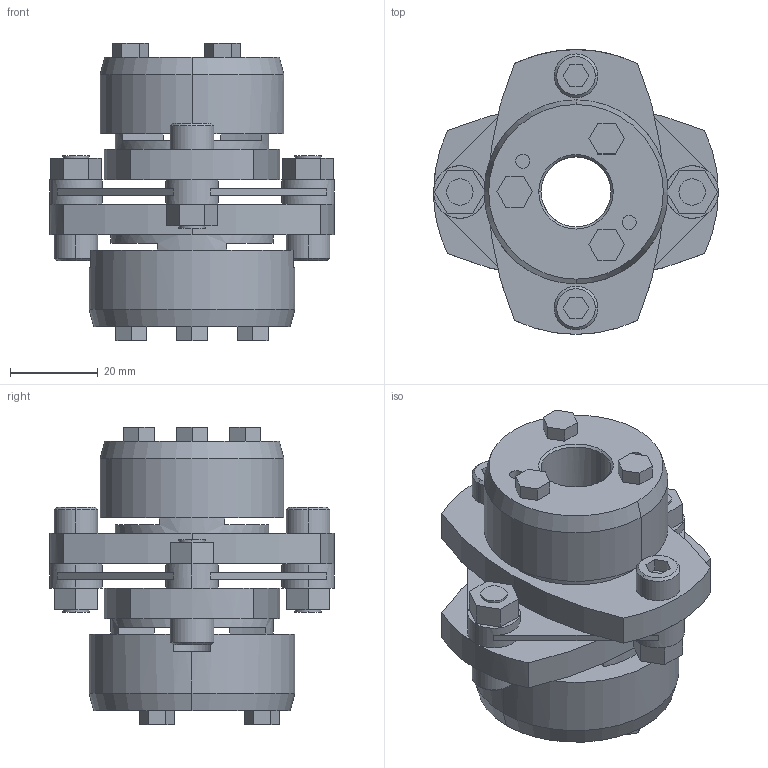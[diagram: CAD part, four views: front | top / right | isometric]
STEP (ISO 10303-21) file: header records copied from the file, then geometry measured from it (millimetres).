
FILE_DESCRIPTION((''),'2;1');
FILE_NAME('LCS-65T7-16×20.stp','2011-08-23T13:14:23',(''),(''),'AutoCAD STEP 2000i','AutoCAD 2000i',', , ');
FILE_SCHEMA(('CONFIG_CONTROL_DESIGN'));
Length unit declared in the file: millimetre
Products named in the file (7): LCS-65T7-15×19; 忣兜1; LC65T7-T019; LC65T7-T017; LC65T7-T015-1; LC65T7-T015; LCS65-ITA
Assembly tree (6 placements, depth 2):
  LCS-65T7-15×19
    忣兜1
    LC65T7-T019
    LC65T7-T017
    LC65T7-T015-1
    LC65T7-T015
    LCS65-ITA
Bounding box: 65 x 65 x 67.9 mm (x, y, z)
Volume: 84992.4 mm3; surface area: 29138.8 mm2
Topology: 1 solids, 1 shells, 224 faces, 575 edges, 375 vertices
Faces by surface type: plane 134, cylinder 70, cone 20
Entity records: 7037 total; most frequent: DIRECTION 1240, CARTESIAN_POINT 1181, ORIENTED_EDGE 1150, EDGE_CURVE 575, AXIS2_PLACEMENT_3D 434, VERTEX_POINT 375, VECTOR 372, LINE 372
